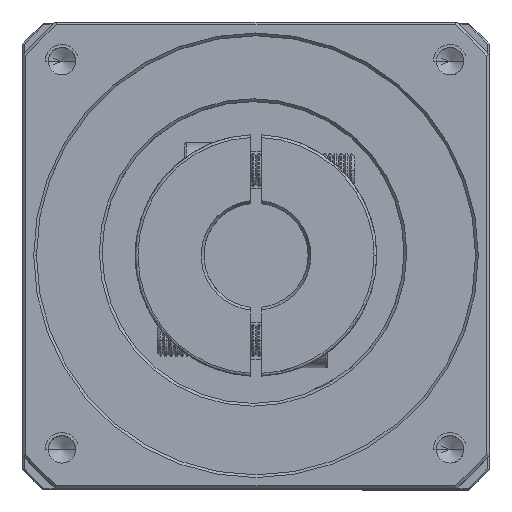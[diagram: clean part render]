
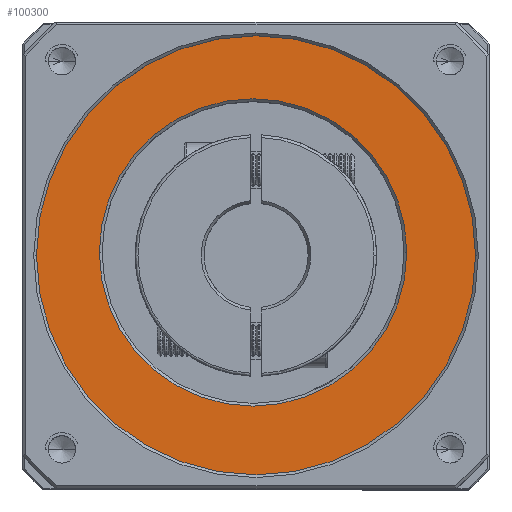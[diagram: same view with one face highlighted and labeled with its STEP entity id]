
A CAD part, top view. The second image highlights one B-rep face of the part: STEP entity #100300.
In plain terms, the highlighted planar face has unit normal (0, 0, 1).
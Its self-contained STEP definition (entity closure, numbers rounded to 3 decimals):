
#5423 = CARTESIAN_POINT ( 'NONE',  ( -60.257, 25.408, 11.032 ) ) ;
#6206 = CARTESIAN_POINT ( 'NONE',  ( -20.257, 25.408, 11.032 ) ) ;
#6566 = CARTESIAN_POINT ( 'NONE',  ( -88.799, 25.942, 11.032 ) ) ;
#8399 = CIRCLE ( 'NONE', #96123, 28. ) ;
#9830 = EDGE_CURVE ( 'NONE', #49774, #104660, #116432, .T. ) ;
#12669 = CARTESIAN_POINT ( 'NONE',  ( -60.799, 25.942, 11.032 ) ) ;
#22786 = DIRECTION ( 'NONE',  ( 1., 0., 0. ) ) ;
#24838 = DIRECTION ( 'NONE',  ( 0., 0., 1. ) ) ;
#27116 = EDGE_LOOP ( 'NONE', ( #29852, #90390 ) ) ;
#29491 = AXIS2_PLACEMENT_3D ( 'NONE', #123478, #42130, #61666 ) ;
#29852 = ORIENTED_EDGE ( 'NONE', *, *, #65831, .T. ) ;
#32099 = DIRECTION ( 'NONE',  ( 0., 0., -1. ) ) ;
#42130 = DIRECTION ( 'NONE',  ( 0., 0., 1. ) ) ;
#49548 = VERTEX_POINT ( 'NONE', #6566 ) ;
#49774 = VERTEX_POINT ( 'NONE', #120250 ) ;
#51415 = DIRECTION ( 'NONE',  ( 1., 0., 0. ) ) ;
#51581 = EDGE_CURVE ( 'NONE', #49548, #64409, #8399, .T. ) ;
#54077 = PLANE ( 'NONE',  #108053 ) ;
#58186 = FACE_OUTER_BOUND ( 'NONE', #27116, .T. ) ;
#61666 = DIRECTION ( 'NONE',  ( 1., 0., 0. ) ) ;
#64409 = VERTEX_POINT ( 'NONE', #126421 ) ;
#65831 = EDGE_CURVE ( 'NONE', #104660, #49774, #74199, .T. ) ;
#70413 = ORIENTED_EDGE ( 'NONE', *, *, #94693, .T. ) ;
#71752 = DIRECTION ( 'NONE',  ( 1., 0., 0. ) ) ;
#74199 = CIRCLE ( 'NONE', #29491, 40. ) ;
#82970 = CARTESIAN_POINT ( 'NONE',  ( -60.257, 25.408, 11.032 ) ) ;
#90390 = ORIENTED_EDGE ( 'NONE', *, *, #9830, .T. ) ;
#90415 = ORIENTED_EDGE ( 'NONE', *, *, #51581, .T. ) ;
#91933 = CARTESIAN_POINT ( 'NONE',  ( -60.799, 25.942, 11.032 ) ) ;
#93676 = DIRECTION ( 'NONE',  ( 0., 0., 1. ) ) ;
#94693 = EDGE_CURVE ( 'NONE', #64409, #49548, #119754, .T. ) ;
#96123 = AXIS2_PLACEMENT_3D ( 'NONE', #12669, #112010, #22786 ) ;
#100300 = ADVANCED_FACE ( 'NONE', ( #58186, #108388 ), #54077, .T. ) ;
#104660 = VERTEX_POINT ( 'NONE', #6206 ) ;
#108053 = AXIS2_PLACEMENT_3D ( 'NONE', #82970, #24838, #114066 ) ;
#108388 = FACE_BOUND ( 'NONE', #112385, .T. ) ;
#112010 = DIRECTION ( 'NONE',  ( 0., 0., -1. ) ) ;
#112385 = EDGE_LOOP ( 'NONE', ( #70413, #90415 ) ) ;
#114066 = DIRECTION ( 'NONE',  ( 1., 0., 0. ) ) ;
#116432 = CIRCLE ( 'NONE', #125707, 40. ) ;
#119754 = CIRCLE ( 'NONE', #119802, 28. ) ;
#119802 = AXIS2_PLACEMENT_3D ( 'NONE', #91933, #32099, #71752 ) ;
#120250 = CARTESIAN_POINT ( 'NONE',  ( -100.257, 25.408, 11.032 ) ) ;
#123478 = CARTESIAN_POINT ( 'NONE',  ( -60.257, 25.408, 11.032 ) ) ;
#125707 = AXIS2_PLACEMENT_3D ( 'NONE', #5423, #93676, #51415 ) ;
#126421 = CARTESIAN_POINT ( 'NONE',  ( -32.799, 25.942, 11.032 ) ) ;
